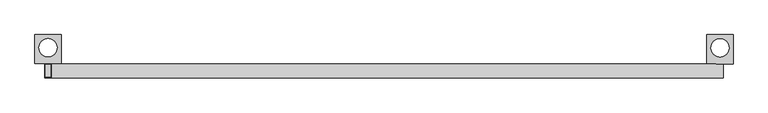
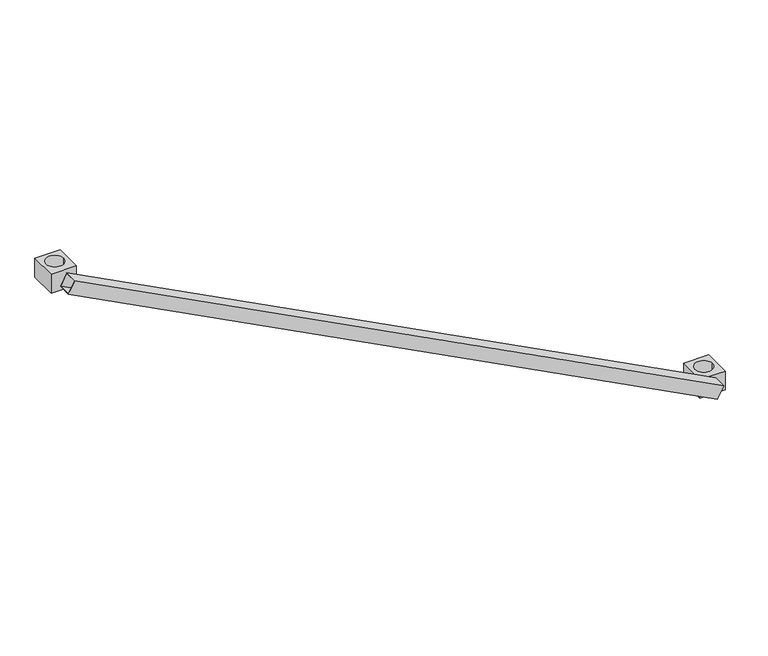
"""IFC4 building model written with IfcOpenShell, lengths in millimetres: proxy geometry, AK_アルバトロスAK伸縮斜材 : H1350×L1800."""

import ifcopenshell
import ifcopenshell.guid

model = None  # the IFC model being written
_history = None  # IfcOwnerHistory: only IFC2X3 demands one
_inside = {}  # id of a spatial element -> (the spatial element, [elements in it])
_under = {}  # id of a project, library or spatial element -> (it, [spatial elements below it])
_declared = {}  # id of a project -> (the project, [libraries it declares])
_typed = {}  # id of a type object -> (the type object, [elements of that type])
_made_of = {}  # id of a material, layer set ... -> (it, [elements and type objects made of it])


def new_model(schema):
    """Start an empty IFC model of exactly this schema.

    Asked for "IFC4X3", IfcOpenShell would pick the latest addendum, in which some entities
    have other attributes; the version numbers below select the first issue.
    IFC2X3 requires an IfcOwnerHistory on every rooted entity: one is made here for all.
    """
    global model, _history
    if schema == "IFC4X3":
        model = ifcopenshell.file(schema_version=(4, 3, 0, 0))
    else:
        model = ifcopenshell.file(schema=schema)
    _inside.clear()
    _under.clear()
    _declared.clear()
    _typed.clear()
    _made_of.clear()
    _history = None
    if model.schema == "IFC2X3":
        org = make("IfcOrganization", Name="unknown")
        user = make(
            "IfcPersonAndOrganization",
            ThePerson=make("IfcPerson", FamilyName="unknown"),
            TheOrganization=org,
        )
        app = make(
            "IfcApplication",
            ApplicationDeveloper=org,
            Version="unknown",
            ApplicationFullName="unknown",
            ApplicationIdentifier="unknown",
        )
        _history = make(
            "IfcOwnerHistory",
            OwningUser=user,
            OwningApplication=app,
            ChangeAction="ADDED",
            CreationDate=0,
        )
    return model


def make(cls, **values):
    """One entity of the class cls with the attributes given. An attribute that is None is left unset."""
    return model.create_entity(
        cls, **{name: value for name, value in values.items() if value is not None}
    )


def rooted(cls, **values):
    """An entity with a GlobalId (a new one), such as an element, a storey or a relation."""
    return make(cls, GlobalId=ifcopenshell.guid.new(), OwnerHistory=_history, **values)


def si_unit(unit_type, name, prefix=None):
    """IfcSIUnit, for example si_unit("LENGTHUNIT", "METRE", prefix="MILLI")."""
    return make("IfcSIUnit", UnitType=unit_type, Prefix=prefix, Name=name)


def assignment(units):
    """IfcUnitAssignment: the units of a project."""
    return None if units is None else make("IfcUnitAssignment", Units=units)


def point(xyz):
    """IfcCartesianPoint."""
    return None if xyz is None else make("IfcCartesianPoint", Coordinates=xyz)


def direction(xyz):
    """IfcDirection."""
    return None if xyz is None else make("IfcDirection", DirectionRatios=xyz)


def frame(location, z_axis=None, x_axis=None):
    """IfcAxis2Placement3D, a coordinate frame: its origin and axes. An axis left out is left unset."""
    return make(
        "IfcAxis2Placement3D",
        Location=point(location),
        Axis=direction(z_axis),
        RefDirection=direction(x_axis),
    )


def frame_2d(location, x_axis=None):
    """IfcAxis2Placement2D, a coordinate frame in the plane: its origin and x axis."""
    return make(
        "IfcAxis2Placement2D", Location=point(location), RefDirection=direction(x_axis)
    )


def origin():
    """The frame at (0, 0, 0) with its axes left unset."""
    return frame((0.0, 0.0, 0.0))


def place(relative_to, where):
    """IfcLocalPlacement: puts the frame where relative to a parent placement (None: the world)."""
    return make(
        "IfcLocalPlacement", PlacementRelTo=relative_to, RelativePlacement=where
    )


def context(
    kind, dimensions, precision=None, world=None, true_north=None, identifier=None
):
    """IfcGeometricRepresentationContext, for example the 3D "Model" context."""
    return make(
        "IfcGeometricRepresentationContext",
        ContextIdentifier=identifier,
        ContextType=kind,
        CoordinateSpaceDimension=dimensions,
        Precision=precision,
        WorldCoordinateSystem=world,
        TrueNorth=true_north,
    )


def project(units=None, contexts=None):
    """IfcProject with its units and contexts."""
    return rooted(
        "IfcProject",
        Name="project",
        RepresentationContexts=contexts,
        UnitsInContext=assignment(units),
    )


def spatial(cls, under=None, at=None, **own):
    """A site, building, storey or space (cls), placed at a placement, below another one or the project."""
    s = rooted(cls, ObjectPlacement=at, **own)
    if under is not None:
        _under.setdefault(under.id(), (under, []))[1].append(s)
    return s


def polyline(points):
    """IfcPolyline through the points."""
    return make("IfcPolyline", Points=[point(p) for p in points])


def circle_curve(where, radius):
    """IfcCircle in the frame where."""
    return make("IfcCircle", Position=where, Radius=radius)


def trimmed(basis, trim1, trim2, sense, master):
    """IfcTrimmedCurve: the piece of a basis curve between two trims."""
    return make(
        "IfcTrimmedCurve",
        BasisCurve=basis,
        Trim1=trim1,
        Trim2=trim2,
        SenseAgreement=sense,
        MasterRepresentation=master,
    )


def segment(curve, same_sense, transition):
    """IfcCompositeCurveSegment."""
    return make(
        "IfcCompositeCurveSegment",
        Transition=transition,
        SameSense=same_sense,
        ParentCurve=curve,
    )


def composite_curve(segments, self_intersect=None):
    """IfcCompositeCurve: segments joined end to end."""
    return make("IfcCompositeCurve", Segments=segments, SelfIntersect=self_intersect)


def outline(outer, holes=None, kind="AREA"):
    """IfcArbitraryClosedProfileDef: a profile drawn as a closed curve; with holes, ...WithVoids."""
    if holes is None:
        return make("IfcArbitraryClosedProfileDef", ProfileType=kind, OuterCurve=outer)
    return make(
        "IfcArbitraryProfileDefWithVoids",
        ProfileType=kind,
        OuterCurve=outer,
        InnerCurves=holes,
    )


def extrude(swept, where, along, depth):
    """IfcExtrudedAreaSolid: the profile swept, set in the frame where, extruded along a direction by depth."""
    return make(
        "IfcExtrudedAreaSolid",
        SweptArea=swept,
        Position=where,
        ExtrudedDirection=direction(along),
        Depth=depth,
    )


def shape(context_of_items, identifier, shape_type, items):
    """IfcShapeRepresentation: the items that make up one representation, for example the "Body"."""
    return make(
        "IfcShapeRepresentation",
        ContextOfItems=context_of_items,
        RepresentationIdentifier=identifier,
        RepresentationType=shape_type,
        Items=items,
    )


def source(mapping_origin, context_of_items, identifier, shape_type, items):
    """IfcRepresentationMap: a shape defined once, which mapped items show again and again."""
    return make(
        "IfcRepresentationMap",
        MappingOrigin=mapping_origin,
        MappedRepresentation=shape(context_of_items, identifier, shape_type, items),
    )


def transform(
    local_origin,
    x_axis=None,
    y_axis=None,
    z_axis=None,
    scale=None,
    scale2=None,
    scale3=None,
    uniform=True,
):
    """IfcCartesianTransformationOperator3D, or its non-uniform kind. x_axis, y_axis, z_axis: its Axis1, 2, 3."""
    if uniform:
        return make(
            "IfcCartesianTransformationOperator3D",
            Axis1=direction(x_axis),
            Axis2=direction(y_axis),
            LocalOrigin=point(local_origin),
            Scale=scale,
            Axis3=direction(z_axis),
        )
    return make(
        "IfcCartesianTransformationOperator3DnonUniform",
        Axis1=direction(x_axis),
        Axis2=direction(y_axis),
        LocalOrigin=point(local_origin),
        Scale=scale,
        Axis3=direction(z_axis),
        Scale2=scale2,
        Scale3=scale3,
    )


def mapped(mapping_source, mapping_target):
    """IfcMappedItem: shows the shape of a source again, moved by a transform."""
    return make(
        "IfcMappedItem", MappingSource=mapping_source, MappingTarget=mapping_target
    )


def made_of(thing, what):
    """Note that an element or type object is made of a material, layer set ...; save() writes the relation."""
    if what is not None:
        _made_of.setdefault(what.id(), (what, []))[1].append(thing)
    return thing


def element(
    cls,
    number,
    at=None,
    inside=None,
    cuts=None,
    type_object=None,
    material=None,
    context=None,
    identifier="Body",
    shape_type=None,
    held_by="IfcProductDefinitionShape",
    body=None,
    shapes=None,
    **own,
):
    """One element of the class cls, such as IfcWall. Its Tag is "e" and its number.

    at: its placement. inside: the storey or other place that contains it. cuts: it is an
    opening in that element (IfcRelVoidsElement). A single representation is given by context,
    identifier, shape_type and body (its items); several are given by shapes. held_by: the class
    of the entity that holds the representations. save() writes the other relations.
    """
    e = rooted(cls, Tag="e%d" % number, ObjectPlacement=at, **own)
    if body is not None:
        shapes = [shape(context, identifier, shape_type, body)]
    if shapes is not None:
        e.Representation = make(held_by, Representations=shapes)
    if inside is not None:
        _inside.setdefault(inside.id(), (inside, []))[1].append(e)
    if cuts is not None:
        rooted(
            "IfcRelVoidsElement", RelatingBuildingElement=cuts, RelatedOpeningElement=e
        )
    if type_object is not None:
        _typed.setdefault(type_object.id(), (type_object, []))[1].append(e)
    return made_of(e, material)


def aggregate(whole, parts):
    """IfcRelAggregates: a whole, such as a stair, and the parts it consists of."""
    return rooted("IfcRelAggregates", RelatingObject=whole, RelatedObjects=parts)


def save(model, path):
    """Write the relations noted so far, then the file.

    IfcRelAggregates (storeys below a building ...), IfcRelContainedInSpatialStructure (elements
    in a storey), IfcRelDefinesByType, IfcRelAssociatesMaterial and IfcRelDeclares: one each for
    every whole, place, type object, material and project.
    """
    for whole, parts in _under.values():
        aggregate(whole, parts)
    for where, things in _inside.values():
        rooted(
            "IfcRelContainedInSpatialStructure",
            RelatedElements=things,
            RelatingStructure=where,
        )
    for kind, things in _typed.values():
        rooted("IfcRelDefinesByType", RelatedObjects=things, RelatingType=kind)
    for what, things in _made_of.values():
        rooted("IfcRelAssociatesMaterial", RelatedObjects=things, RelatingMaterial=what)
    for by, libraries in _declared.values():
        rooted("IfcRelDeclares", RelatingContext=by, RelatedDefinitions=libraries)
    model.write(path)


def generic_models_2d8e7d99(model_context):
    return source(origin(), model_context, "Body", "SweptSolid", [
        extrude(outline(polyline([(0.0, 0.0), (0.0, -38.0), (-37.9999999, -38.0), (-37.9999999, 0.0), (0.0, 0.0)]), holes=[polyline([(-2.0, -2.0), (-35.9999999, -2.0), (-35.9999999, -36.0), (-2.0, -36.0), (-2.0, -2.0)])]), frame((8.7845773, 19.0, 16.8472906), z_axis=(-0.8866995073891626, 0.0, 0.4623461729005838), x_axis=(0.4623461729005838, 0.0, 0.8866995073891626)), (0.0, 0.0, 1.0), 2030.0),
        extrude(outline(polyline([(35.0, 96.8842695), (35.0, 19.0), (-35.0, 19.0), (-35.0, 96.8842695), (35.0, 96.8842695)]), holes=[composite_curve([segment(trimmed(circle_curve(frame_2d((0.0, 61.8842695)), 24.3), [point((24.3, 61.8842695))], [point((-24.3, 61.8842695))], True, "CARTESIAN"), True, "CONTINUOUS"), segment(trimmed(circle_curve(frame_2d((0.0, 61.8842695)), 24.3), [point((-24.3, 61.8842695))], [point((24.3, 61.8842695))], True, "CARTESIAN"), True, "CONTINUOUS")], self_intersect=False)]), frame((0.0, 0.0, -27.7559086), z_axis=(0.0, 0.0, 1.0), x_axis=(1.0, 0.0, 0.0)), (0.0, 0.0, 1.0), 55.5118171),
        extrude(outline(polyline([(-1765.0, 19.0), (-1835.0, 19.0), (-1835.0, 96.8842695), (-1765.0, 96.8842695), (-1765.0, 19.0)]), holes=[composite_curve([segment(trimmed(circle_curve(frame_2d((-1800.0, 61.8842695)), 24.3), [point((-1775.7, 61.8842695))], [point((-1824.3, 61.8842695))], True, "CARTESIAN"), True, "CONTINUOUS"), segment(trimmed(circle_curve(frame_2d((-1800.0, 61.8842695)), 24.3), [point((-1824.3, 61.8842695))], [point((-1775.7, 61.8842695))], True, "CARTESIAN"), True, "CONTINUOUS")], self_intersect=False)]), frame((0.0, 0.0, 910.8068224), z_axis=(0.0, 0.0, 1.0), x_axis=(1.0, 0.0, 0.0)), (0.0, 0.0, 1.0), 55.5118171),
    ])


if __name__ == "__main__":
    model = new_model("IFC4")
    model_context = context("Model", 3, world=origin())
    ifc_project = project(units=[si_unit("LENGTHUNIT", "METRE", prefix="MILLI")], contexts=[model_context])
    site = spatial("IfcSite", under=ifc_project)
    building = spatial("IfcBuilding", under=site)
    placement = place(None, origin())
    generic_models_shape = generic_models_2d8e7d99(model_context)
    element("IfcBuildingElementProxy", 1, Name="AK_アルバトロスAK伸縮斜材 : H1350×L1800", ObjectType="AK_アルバトロスAK伸縮斜材 : H1350×L1800", at=placement, inside=building, context=model_context, shape_type="MappedRepresentation", body=[
        mapped(generic_models_shape, transform((0.0, 0.0, 0.0), x_axis=(1.0, 0.0, 0.0), y_axis=(0.0, 1.0, 0.0), z_axis=(0.0, 0.0, 1.0))),
    ])
    save(model, "model.ifc")
